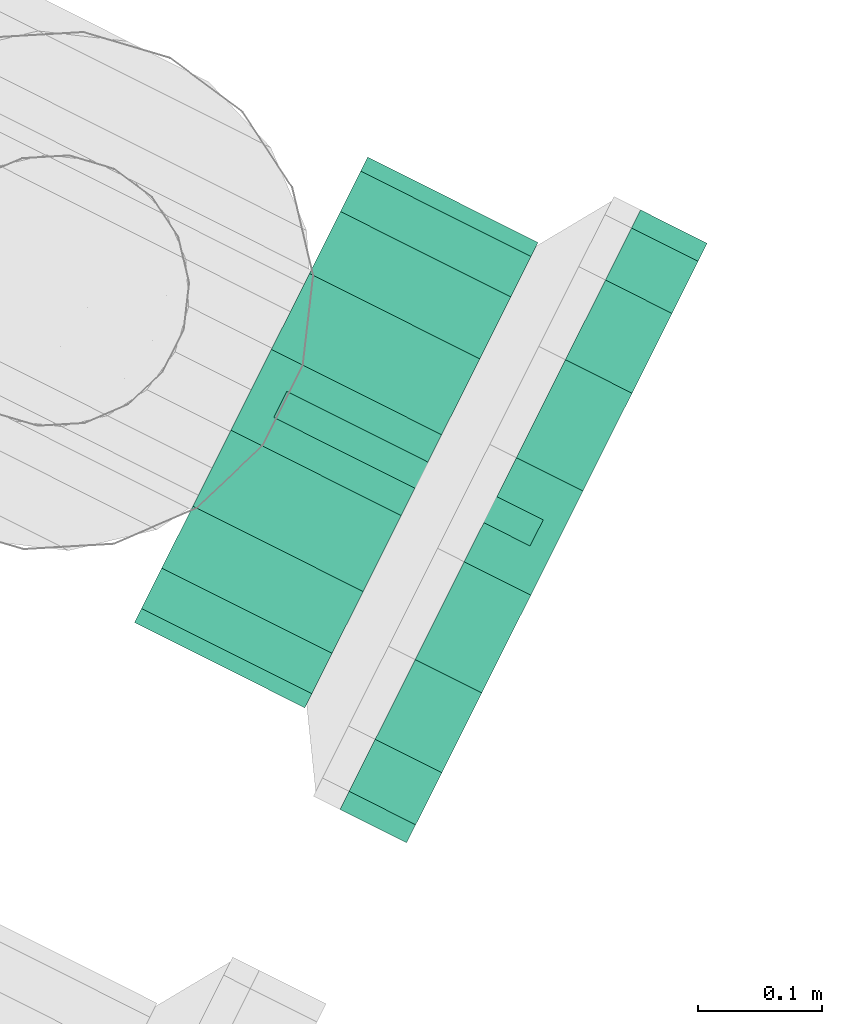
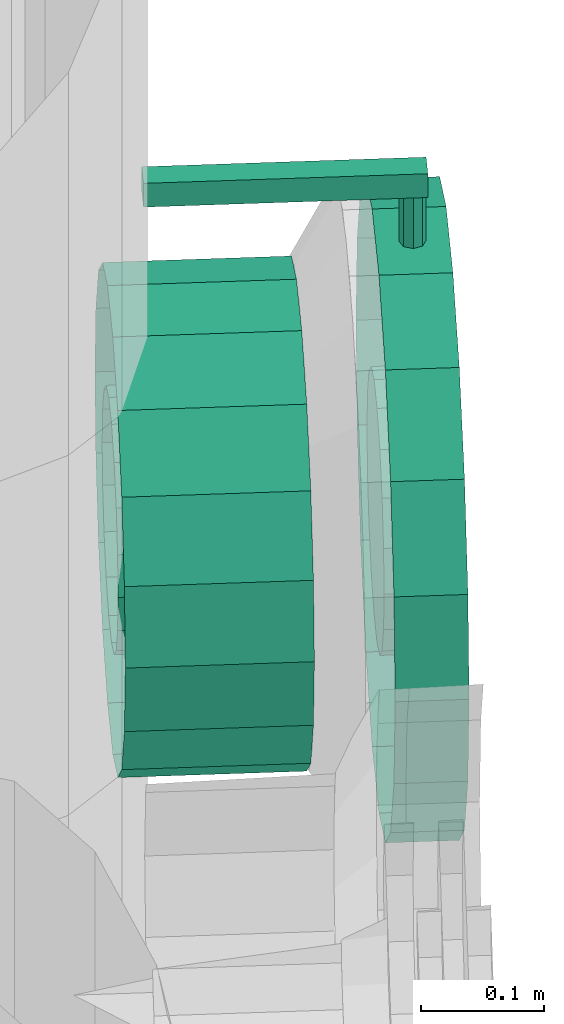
# One storey, part 10 of 11: 1 flow controller, 1 flow segment.
"""IFC2X3 building model written with IfcOpenShell, lengths in metres."""

from ifc_helpers import new_model, si_unit, derived_unit, direction, frame, origin, place, context, subcontext, project, spatial, face_set, surface_model, source, transform, mapped, material, type_object, type_shapes, element, save


model = new_model("IFC2X3")

# Units and contexts
model_context = context("Model", 3, precision=5.2338327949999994e-05, world=origin(), true_north=direction((0.0, 1.0)))
body_context = subcontext(model_context, "Body", "Model", "MODEL_VIEW")
ifc_project = project(units=[si_unit("LENGTHUNIT", "METRE"), si_unit("AREAUNIT", "SQUARE_METRE"), si_unit("VOLUMEUNIT", "CUBIC_METRE"), si_unit("MASSUNIT", "GRAM", prefix="KILO"), si_unit("PLANEANGLEUNIT", "RADIAN"), derived_unit("THERMALTRANSMITTANCEUNIT", [(si_unit("MASSUNIT", "GRAM", prefix="KILO"), 1), (si_unit("THERMODYNAMICTEMPERATUREUNIT", "KELVIN"), -1), (si_unit("TIMEUNIT", "SECOND"), -3)])], contexts=[model_context])

# Site, building, storey
site_placement = place(None, frame((0.0, 0.0, 0.0), z_axis=(0.0, 0.0, 1.0), x_axis=(0.8939966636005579, -0.4480736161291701, 0.0)))
site = spatial("IfcSite", under=ifc_project, at=site_placement, Name="Default", CompositionType="ELEMENT")
building_placement = place(site_placement, origin())
building = spatial("IfcBuilding", under=site, at=building_placement, CompositionType="ELEMENT")
storey_placement = place(building_placement, frame((0.0, 0.0, -2.7499999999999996)))
storey = spatial("IfcBuildingStorey", under=building, at=storey_placement, Name="1. Untergeschoss", CompositionType="ELEMENT", Elevation=-2.7499999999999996)

# Flow controller
ifc_material = material(Name="IfcSurfaceStyle #1741")
distribution_element_type_1 = type_object("IfcDistributionElementType", Name="Zwischenflanschklappe 861187:Zwischenflanschklappe 861187", material=ifc_material)
shared_shape_1 = source(origin(), body_context, "Body", "SurfaceModel", [
    surface_model("IfcFaceBasedSurfaceModel", [(1.1205692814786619, 8.023958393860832, -0.6886073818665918), (1.3514192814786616, 8.023958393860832, -0.6886073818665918), (1.3514192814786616, 8.000458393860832, -0.6886073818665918), (1.1205692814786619, 8.000458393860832, -0.6886073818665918), (1.3514192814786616, 8.000458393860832, -0.6651073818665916), (1.1205692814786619, 8.000458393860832, -0.6651073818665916), (1.3514192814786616, 8.023958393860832, -0.6651073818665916), (1.1205692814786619, 8.023958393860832, -0.6651073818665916), (1.3096692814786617, 7.8947083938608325, -1.0051073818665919), (1.3096692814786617, 7.901794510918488, -1.045294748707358), (1.3296692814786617, 7.901794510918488, -1.045294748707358), (1.3296692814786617, 7.8947083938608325, -1.0051073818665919), (1.3096692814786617, 7.922198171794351, -1.0806349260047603), (1.3296692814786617, 7.922198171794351, -1.0806349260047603), (1.3096692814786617, 7.953458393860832, -1.106865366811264), (1.3296692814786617, 7.953458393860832, -1.106865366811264), (1.3096692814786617, 7.991804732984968, -1.1208222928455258), (1.3296692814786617, 7.991804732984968, -1.1208222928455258), (1.3096692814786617, 8.032612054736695, -1.120822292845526), (1.3296692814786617, 8.032612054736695, -1.120822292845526), (1.3096692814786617, 8.070958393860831, -1.1068653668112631), (1.3296692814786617, 8.070958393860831, -1.1068653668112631), (1.3096692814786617, 8.102218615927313, -1.08063492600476), (1.3296692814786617, 8.102218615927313, -1.08063492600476), (1.3096692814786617, 8.122622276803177, -1.0452947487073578), (1.3296692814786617, 8.122622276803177, -1.0452947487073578), (1.3096692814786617, 8.129708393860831, -1.0051073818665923), (1.3296692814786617, 8.129708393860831, -1.0051073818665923), (1.3096692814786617, 8.122622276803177, -0.9649200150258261), (1.3296692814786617, 8.122622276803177, -0.9649200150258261), (1.3096692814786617, 8.102218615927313, -0.9295798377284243), (1.3296692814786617, 8.102218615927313, -0.9295798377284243), (1.3096692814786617, 8.070958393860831, -0.9033493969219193), (1.3296692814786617, 8.070958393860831, -0.9033493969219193), (1.3096692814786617, 8.032612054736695, -0.8893924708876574), (1.3296692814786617, 8.032612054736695, -0.8893924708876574), (1.3096692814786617, 7.991804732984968, -0.8893924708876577), (1.3296692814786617, 7.991804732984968, -0.8893924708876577), (1.3096692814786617, 7.953458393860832, -0.9033493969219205), (1.3296692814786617, 7.953458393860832, -0.9033493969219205), (1.3096692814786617, 7.922198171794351, -0.9295798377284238), (1.3296692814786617, 7.922198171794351, -0.9295798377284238), (1.3096692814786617, 7.901794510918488, -0.9649200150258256), (1.3296692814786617, 7.901794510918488, -0.9649200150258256), (1.3096692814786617, 8.012208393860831, -1.0051073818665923), (1.3296692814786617, 8.012208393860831, -1.0051073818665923), (1.3296692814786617, 7.842208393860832, -1.0051073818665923), (1.3296692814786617, 7.852460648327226, -1.063250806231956), (1.3496692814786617, 7.852460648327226, -1.063250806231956), (1.3496692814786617, 7.842208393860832, -1.0051073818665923), (1.3296692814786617, 7.881980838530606, -1.1143812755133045), (1.3496692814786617, 7.881980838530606, -1.1143812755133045), (1.3296692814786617, 7.927208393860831, -1.1523317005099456), (1.3496692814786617, 7.927208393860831, -1.1523317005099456), (1.3296692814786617, 7.982688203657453, -1.172524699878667), (1.3496692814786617, 7.982688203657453, -1.172524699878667), (1.3296692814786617, 8.04172858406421, -1.1725246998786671), (1.3496692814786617, 8.04172858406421, -1.1725246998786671), (1.3296692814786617, 8.097208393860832, -1.1523317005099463), (1.3496692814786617, 8.097208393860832, -1.1523317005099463), (1.3296692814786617, 8.142435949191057, -1.1143812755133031), (1.3496692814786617, 8.142435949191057, -1.1143812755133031), (1.3296692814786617, 8.171956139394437, -1.063250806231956), (1.3496692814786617, 8.171956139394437, -1.063250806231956), (1.3296692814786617, 8.182208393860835, -1.0051073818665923), (1.3496692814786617, 8.182208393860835, -1.0051073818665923), (1.3296692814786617, 8.171956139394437, -0.9469639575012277), (1.3496692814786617, 8.171956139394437, -0.9469639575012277), (1.3296692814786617, 8.142435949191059, -0.8958334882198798), (1.3496692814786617, 8.142435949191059, -0.8958334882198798), (1.3296692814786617, 8.097208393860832, -0.8578830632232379), (1.3496692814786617, 8.097208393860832, -0.8578830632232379), (1.3296692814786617, 8.04172858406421, -0.8376900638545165), (1.3496692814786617, 8.04172858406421, -0.8376900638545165), (1.3296692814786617, 7.982688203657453, -0.8376900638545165), (1.3496692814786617, 7.982688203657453, -0.8376900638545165), (1.3296692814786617, 7.927208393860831, -0.8578830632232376), (1.3496692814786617, 7.927208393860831, -0.8578830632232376), (1.3296692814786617, 7.881980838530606, -0.8958334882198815), (1.3496692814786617, 7.881980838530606, -0.8958334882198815), (1.3296692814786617, 7.852460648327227, -0.946963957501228), (1.3496692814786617, 7.852460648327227, -0.946963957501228), (1.3496692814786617, 8.012208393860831, -1.0051073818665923), (1.3496692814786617, 7.8947083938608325, -1.0051073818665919), (1.3496692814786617, 7.901794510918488, -1.045294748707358), (1.3696692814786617, 7.901794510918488, -1.045294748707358), (1.3696692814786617, 7.8947083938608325, -1.0051073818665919), (1.3496692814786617, 7.922198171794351, -1.0806349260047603), (1.3696692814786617, 7.922198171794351, -1.0806349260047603), (1.3496692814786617, 7.953458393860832, -1.106865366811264), (1.3696692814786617, 7.953458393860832, -1.106865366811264), (1.3496692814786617, 7.991804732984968, -1.1208222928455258), (1.3696692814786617, 7.991804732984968, -1.1208222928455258), (1.3496692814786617, 8.032612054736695, -1.120822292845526), (1.3696692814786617, 8.032612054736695, -1.120822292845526), (1.3496692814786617, 8.070958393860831, -1.1068653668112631), (1.3696692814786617, 8.070958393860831, -1.1068653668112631), (1.3496692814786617, 8.102218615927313, -1.08063492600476), (1.3696692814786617, 8.102218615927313, -1.08063492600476), (1.3496692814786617, 8.122622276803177, -1.0452947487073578), (1.3696692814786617, 8.122622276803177, -1.0452947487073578), (1.3496692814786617, 8.129708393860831, -1.0051073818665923), (1.3696692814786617, 8.129708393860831, -1.0051073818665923), (1.3496692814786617, 8.122622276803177, -0.9649200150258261), (1.3696692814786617, 8.122622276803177, -0.9649200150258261), (1.3496692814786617, 8.102218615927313, -0.9295798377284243), (1.3696692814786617, 8.102218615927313, -0.9295798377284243), (1.3496692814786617, 8.070958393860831, -0.9033493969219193), (1.3696692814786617, 8.070958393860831, -0.9033493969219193), (1.3496692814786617, 8.032612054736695, -0.8893924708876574), (1.3696692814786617, 8.032612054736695, -0.8893924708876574), (1.3496692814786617, 7.991804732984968, -0.8893924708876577), (1.3696692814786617, 7.991804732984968, -0.8893924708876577), (1.3496692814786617, 7.953458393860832, -0.9033493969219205), (1.3696692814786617, 7.953458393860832, -0.9033493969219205), (1.3496692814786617, 7.922198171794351, -0.9295798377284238), (1.3696692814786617, 7.922198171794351, -0.9295798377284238), (1.3496692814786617, 7.901794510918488, -0.9649200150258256), (1.3696692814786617, 7.901794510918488, -0.9649200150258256), (1.3696692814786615, 8.012208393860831, -1.0051073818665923), (1.339669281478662, 8.002208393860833, -1.0051073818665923), (1.3430894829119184, 8.002811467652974, -1.0051073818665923), (1.3430894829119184, 8.002811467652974, -0.7618573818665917), (1.339669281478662, 8.002208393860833, -0.7618573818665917), (1.3460971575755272, 8.004547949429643, -1.0051073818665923), (1.3460971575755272, 8.004547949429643, -0.7618573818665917), (1.3483295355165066, 8.007208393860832, -1.0051073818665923), (1.3483295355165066, 8.007208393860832, -0.7618573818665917), (1.349517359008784, 8.010471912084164, -1.0051073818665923), (1.349517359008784, 8.010471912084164, -0.7618573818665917), (1.349517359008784, 8.013944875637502, -1.0051073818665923), (1.349517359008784, 8.013944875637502, -0.7618573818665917), (1.3483295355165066, 8.017208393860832, -1.0051073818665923), (1.3483295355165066, 8.017208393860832, -0.7618573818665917), (1.3460971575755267, 8.019868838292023, -1.0051073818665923), (1.3460971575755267, 8.019868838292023, -0.7618573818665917), (1.3430894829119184, 8.021605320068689, -1.0051073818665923), (1.3430894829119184, 8.021605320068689, -0.7618573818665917), (1.339669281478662, 8.022208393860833, -1.0051073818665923), (1.339669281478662, 8.022208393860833, -0.7618573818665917), (1.336249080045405, 8.021605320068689, -1.0051073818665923), (1.336249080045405, 8.021605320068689, -0.7618573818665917), (1.333241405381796, 8.019868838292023, -1.0051073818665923), (1.333241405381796, 8.019868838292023, -0.7618573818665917), (1.3310090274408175, 8.017208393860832, -1.0051073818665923), (1.3310090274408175, 8.017208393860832, -0.7618573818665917), (1.3298212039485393, 8.013944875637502, -1.0051073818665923), (1.3298212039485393, 8.013944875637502, -0.7618573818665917), (1.3298212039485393, 8.010471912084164, -1.0051073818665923), (1.3298212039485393, 8.010471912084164, -0.7618573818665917), (1.3310090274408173, 8.007208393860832, -1.0051073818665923), (1.3310090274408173, 8.007208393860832, -0.7618573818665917), (1.3332414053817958, 8.004547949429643, -1.0051073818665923), (1.3332414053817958, 8.004547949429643, -0.7618573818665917), (1.336249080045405, 8.002811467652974, -1.0051073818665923), (1.336249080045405, 8.002811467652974, -0.7618573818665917), (1.339669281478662, 8.012208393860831, -1.005107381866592), (1.339669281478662, 8.012208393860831, -0.7618573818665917), (1.339669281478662, 8.001253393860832, -0.7618573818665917), (1.3474156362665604, 8.004462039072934, -0.7618573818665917), (1.3474156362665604, 8.004462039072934, -0.6886073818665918), (1.339669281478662, 8.001253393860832, -0.6886073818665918), (1.3506242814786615, 8.012208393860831, -0.7618573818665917), (1.3506242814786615, 8.012208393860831, -0.6886073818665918), (1.3474156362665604, 8.01995474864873, -0.7618573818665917), (1.3474156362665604, 8.01995474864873, -0.6886073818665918), (1.339669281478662, 8.023163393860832, -0.7618573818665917), (1.339669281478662, 8.023163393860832, -0.6886073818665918), (1.3319229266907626, 8.01995474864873, -0.7618573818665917), (1.3319229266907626, 8.01995474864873, -0.6886073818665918), (1.3287142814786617, 8.012208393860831, -0.7618573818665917), (1.3287142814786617, 8.012208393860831, -0.6886073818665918), (1.3319229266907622, 8.004462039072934, -0.7618573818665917), (1.3319229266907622, 8.004462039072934, -0.6886073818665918), (1.339669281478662, 8.012208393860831, -0.6886073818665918), (1.3096692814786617, 7.742208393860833, -1.0051073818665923), (1.3096692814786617, 7.758491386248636, -1.0974528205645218), (1.3696692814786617, 7.758491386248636, -1.0974528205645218), (1.3696692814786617, 7.742208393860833, -1.0051073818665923), (1.3096692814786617, 7.805376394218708, -1.1786600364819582), (1.3696692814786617, 7.805376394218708, -1.1786600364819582), (1.3096692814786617, 7.8772083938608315, -1.2389342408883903), (1.3696692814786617, 7.8772083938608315, -1.2389342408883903), (1.3096692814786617, 7.965323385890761, -1.271005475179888), (1.3696692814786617, 7.965323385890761, -1.271005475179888), (1.3096692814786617, 8.059093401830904, -1.271005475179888), (1.3696692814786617, 8.059093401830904, -1.271005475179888), (1.3096692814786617, 8.147208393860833, -1.2389342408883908), (1.3696692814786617, 8.147208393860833, -1.2389342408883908), (1.3096692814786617, 8.219040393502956, -1.1786600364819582), (1.3696692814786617, 8.219040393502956, -1.1786600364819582), (1.3096692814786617, 8.265925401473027, -1.0974528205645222), (1.3696692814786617, 8.265925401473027, -1.0974528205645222), (1.3096692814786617, 8.282208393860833, -1.0051073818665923), (1.3696692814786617, 8.282208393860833, -1.0051073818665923), (1.3096692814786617, 8.265925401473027, -0.912761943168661), (1.3696692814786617, 8.265925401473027, -0.912761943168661), (1.3096692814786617, 8.219040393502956, -0.8315547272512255), (1.3696692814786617, 8.219040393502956, -0.8315547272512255), (1.3096692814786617, 8.147208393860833, -0.7712805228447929), (1.3696692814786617, 8.147208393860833, -0.7712805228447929), (1.3096692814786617, 8.059093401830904, -0.7392092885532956), (1.3696692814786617, 8.059093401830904, -0.7392092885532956), (1.3096692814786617, 7.965323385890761, -0.7392092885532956), (1.3696692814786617, 7.965323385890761, -0.7392092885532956), (1.3096692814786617, 7.8772083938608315, -0.7712805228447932), (1.3696692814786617, 7.8772083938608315, -0.7712805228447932), (1.3096692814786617, 7.805376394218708, -0.8315547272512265), (1.3696692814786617, 7.805376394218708, -0.8315547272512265), (1.3096692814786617, 7.758491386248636, -0.9127619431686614), (1.3696692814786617, 7.758491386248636, -0.9127619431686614)], [face_set([[[0, 1, 2, 3]], [[3, 2, 4, 5]], [[5, 4, 6, 7]], [[7, 6, 1, 0]], [[0, 3, 5, 7]], [[6, 4, 2, 1]], [[8, 9, 10, 11]], [[9, 12, 13, 10]], [[12, 14, 15, 13]], [[14, 16, 17, 15]], [[16, 18, 19, 17]], [[18, 20, 21, 19]], [[20, 22, 23, 21]], [[22, 24, 25, 23]], [[24, 26, 27, 25]], [[26, 28, 29, 27]], [[28, 30, 31, 29]], [[30, 32, 33, 31]], [[32, 34, 35, 33]], [[34, 36, 37, 35]], [[36, 38, 39, 37]], [[38, 40, 41, 39]], [[40, 42, 43, 41]], [[42, 8, 11, 43]], [[44, 9, 8]], [[44, 12, 9]], [[44, 14, 12]], [[44, 16, 14]], [[44, 18, 16]], [[44, 20, 18]], [[44, 22, 20]], [[44, 24, 22]], [[44, 26, 24]], [[44, 28, 26]], [[44, 30, 28]], [[44, 32, 30]], [[44, 34, 32]], [[44, 36, 34]], [[44, 38, 36]], [[44, 40, 38]], [[44, 42, 40]], [[44, 8, 42]], [[45, 43, 11]], [[45, 41, 43]], [[45, 39, 41]], [[45, 37, 39]], [[45, 35, 37]], [[45, 33, 35]], [[45, 31, 33]], [[45, 29, 31]], [[45, 27, 29]], [[45, 25, 27]], [[45, 23, 25]], [[45, 21, 23]], [[45, 19, 21]], [[45, 17, 19]], [[45, 15, 17]], [[45, 13, 15]], [[45, 10, 13]], [[45, 11, 10]], [[46, 47, 48, 49]], [[47, 50, 51, 48]], [[50, 52, 53, 51]], [[52, 54, 55, 53]], [[54, 56, 57, 55]], [[56, 58, 59, 57]], [[58, 60, 61, 59]], [[60, 62, 63, 61]], [[62, 64, 65, 63]], [[64, 66, 67, 65]], [[66, 68, 69, 67]], [[68, 70, 71, 69]], [[70, 72, 73, 71]], [[72, 74, 75, 73]], [[74, 76, 77, 75]], [[76, 78, 79, 77]], [[78, 80, 81, 79]], [[80, 46, 49, 81]], [[45, 47, 46]], [[45, 50, 47]], [[45, 52, 50]], [[45, 54, 52]], [[45, 56, 54]], [[45, 58, 56]], [[45, 60, 58]], [[45, 62, 60]], [[45, 64, 62]], [[45, 66, 64]], [[45, 68, 66]], [[45, 70, 68]], [[45, 72, 70]], [[45, 74, 72]], [[45, 76, 74]], [[45, 78, 76]], [[45, 80, 78]], [[45, 46, 80]], [[82, 81, 49]], [[82, 79, 81]], [[82, 77, 79]], [[82, 75, 77]], [[82, 73, 75]], [[82, 71, 73]], [[82, 69, 71]], [[82, 67, 69]], [[82, 65, 67]], [[82, 63, 65]], [[82, 61, 63]], [[82, 59, 61]], [[82, 57, 59]], [[82, 55, 57]], [[82, 53, 55]], [[82, 51, 53]], [[82, 48, 51]], [[82, 49, 48]], [[83, 84, 85, 86]], [[84, 87, 88, 85]], [[87, 89, 90, 88]], [[89, 91, 92, 90]], [[91, 93, 94, 92]], [[93, 95, 96, 94]], [[95, 97, 98, 96]], [[97, 99, 100, 98]], [[99, 101, 102, 100]], [[101, 103, 104, 102]], [[103, 105, 106, 104]], [[105, 107, 108, 106]], [[107, 109, 110, 108]], [[109, 111, 112, 110]], [[111, 113, 114, 112]], [[113, 115, 116, 114]], [[115, 117, 118, 116]], [[117, 83, 86, 118]], [[82, 84, 83]], [[82, 87, 84]], [[82, 89, 87]], [[82, 91, 89]], [[82, 93, 91]], [[82, 95, 93]], [[82, 97, 95]], [[82, 99, 97]], [[82, 101, 99]], [[82, 103, 101]], [[82, 105, 103]], [[82, 107, 105]], [[82, 109, 107]], [[82, 111, 109]], [[82, 113, 111]], [[82, 115, 113]], [[82, 117, 115]], [[82, 83, 117]], [[119, 118, 86]], [[119, 116, 118]], [[119, 114, 116]], [[119, 112, 114]], [[119, 110, 112]], [[119, 108, 110]], [[119, 106, 108]], [[119, 104, 106]], [[119, 102, 104]], [[119, 100, 102]], [[119, 98, 100]], [[119, 96, 98]], [[119, 94, 96]], [[119, 92, 94]], [[119, 90, 92]], [[119, 88, 90]], [[119, 85, 88]], [[119, 86, 85]], [[120, 121, 122, 123]], [[121, 124, 125, 122]], [[124, 126, 127, 125]], [[126, 128, 129, 127]], [[128, 130, 131, 129]], [[130, 132, 133, 131]], [[132, 134, 135, 133]], [[134, 136, 137, 135]], [[136, 138, 139, 137]], [[138, 140, 141, 139]], [[140, 142, 143, 141]], [[142, 144, 145, 143]], [[144, 146, 147, 145]], [[146, 148, 149, 147]], [[148, 150, 151, 149]], [[150, 152, 153, 151]], [[152, 154, 155, 153]], [[154, 120, 123, 155]], [[156, 121, 120]], [[156, 124, 121]], [[156, 126, 124]], [[156, 128, 126]], [[156, 130, 128]], [[156, 132, 130]], [[156, 134, 132]], [[156, 136, 134]], [[156, 138, 136]], [[156, 140, 138]], [[156, 142, 140]], [[156, 144, 142]], [[156, 146, 144]], [[156, 148, 146]], [[156, 150, 148]], [[156, 152, 150]], [[156, 154, 152]], [[156, 120, 154]], [[157, 155, 123]], [[157, 153, 155]], [[157, 151, 153]], [[157, 149, 151]], [[157, 147, 149]], [[157, 145, 147]], [[157, 143, 145]], [[157, 141, 143]], [[157, 139, 141]], [[157, 137, 139]], [[157, 135, 137]], [[157, 133, 135]], [[157, 131, 133]], [[157, 129, 131]], [[157, 127, 129]], [[157, 125, 127]], [[157, 122, 125]], [[157, 123, 122]], [[158, 159, 160, 161]], [[159, 162, 163, 160]], [[162, 164, 165, 163]], [[164, 166, 167, 165]], [[166, 168, 169, 167]], [[168, 170, 171, 169]], [[170, 172, 173, 171]], [[172, 158, 161, 173]], [[174, 173, 161]], [[174, 171, 173]], [[174, 169, 171]], [[174, 167, 169]], [[174, 165, 167]], [[174, 163, 165]], [[174, 160, 163]], [[174, 161, 160]], [[175, 176, 177, 178]], [[176, 179, 180, 177]], [[179, 181, 182, 180]], [[181, 183, 184, 182]], [[183, 185, 186, 184]], [[185, 187, 188, 186]], [[187, 189, 190, 188]], [[189, 191, 192, 190]], [[191, 193, 194, 192]], [[193, 195, 196, 194]], [[195, 197, 198, 196]], [[197, 199, 200, 198]], [[199, 201, 202, 200]], [[201, 203, 204, 202]], [[203, 205, 206, 204]], [[205, 207, 208, 206]], [[207, 209, 210, 208]], [[209, 175, 178, 210]]])]),
])
type_shapes(distribution_element_type_1, [shared_shape_1])
flow_controller_placement = place(storey_placement, frame((0.0, 0.0, 2.7499999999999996)))
element("IfcFlowController", 1, at=flow_controller_placement, inside=storey, type_object=distribution_element_type_1, material=ifc_material, Name="Zwischenflanschklappe", ObjectType="Zwischenflanschklappe", context=body_context, shape_type="MappedRepresentation", body=[
    mapped(shared_shape_1, transform((0.0, 0.0, 0.0), scale=1.0)),
])

# Flow segment
distribution_element_type_2 = type_object("IfcDistributionElementType", Name="Stahlrohr nach DIN 2448 861210:Stahlrohr nach DIN 2448 861210", material=ifc_material)
shared_shape_2 = source(origin(), body_context, "Body", "SurfaceModel", [
    surface_model("IfcFaceBasedSurfaceModel", [(1.094269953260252, 8.121758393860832, -1.0051073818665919), (1.094269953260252, 8.11515172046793, -0.9676390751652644), (1.2476692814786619, 8.11515172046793, -0.9676390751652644), (1.2476692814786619, 8.121758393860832, -1.0051073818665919), (1.094269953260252, 8.096128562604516, -0.934689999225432), (1.2476692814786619, 8.096128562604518, -0.9346899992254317), (1.094269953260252, 8.066983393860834, -0.9102342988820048), (1.2476692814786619, 8.066983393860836, -0.9102342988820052), (1.094269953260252, 8.03123155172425, -0.8972216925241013), (1.2476692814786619, 8.031231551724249, -0.8972216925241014), (1.094269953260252, 7.9931852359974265, -0.8972216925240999), (1.2476692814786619, 7.993185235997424, -0.8972216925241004), (1.094269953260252, 7.9574333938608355, -0.9102342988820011), (1.2476692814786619, 7.9574333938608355, -0.9102342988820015), (1.094269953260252, 7.928288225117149, -0.9346899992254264), (1.2476692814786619, 7.928288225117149, -0.9346899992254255), (1.094269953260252, 7.909265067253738, -0.967639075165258), (1.2476692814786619, 7.909265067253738, -0.9676390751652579), (1.094269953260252, 7.902658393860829, -1.0051073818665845), (1.2476692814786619, 7.902658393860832, -1.0051073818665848), (1.094269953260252, 7.909265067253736, -1.0425756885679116), (1.2476692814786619, 7.909265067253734, -1.042575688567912), (1.094269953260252, 7.928288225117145, -1.0755247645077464), (1.2476692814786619, 7.928288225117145, -1.0755247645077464), (1.094269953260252, 7.957433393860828, -1.0999804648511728), (1.2476692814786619, 7.9574333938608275, -1.0999804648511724), (1.094269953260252, 7.993185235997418, -1.112993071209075), (1.2476692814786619, 7.993185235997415, -1.1129930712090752), (1.094269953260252, 8.031231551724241, -1.1129930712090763), (1.2476692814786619, 8.03123155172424, -1.1129930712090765), (1.094269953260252, 8.066983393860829, -1.0999804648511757), (1.2476692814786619, 8.066983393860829, -1.0999804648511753), (1.094269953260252, 8.096128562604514, -1.075524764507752), (1.2476692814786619, 8.096128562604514, -1.075524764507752), (1.094269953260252, 8.115151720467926, -1.0425756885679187), (1.2476692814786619, 8.115151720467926, -1.0425756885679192), (1.094269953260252, 8.221758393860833, -1.0051073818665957), (1.094269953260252, 8.209120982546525, -0.9334370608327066), (1.2476692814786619, 8.209120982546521, -0.9334370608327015), (1.2476692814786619, 8.22175839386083, -1.0051073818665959), (1.094269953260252, 8.172733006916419, -0.8704112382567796), (1.2476692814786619, 8.172733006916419, -0.8704112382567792), (1.094269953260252, 8.116983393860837, -0.8236317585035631), (1.2476692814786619, 8.116983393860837, -0.8236317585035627), (1.094269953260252, 8.048596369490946, -0.7987409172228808), (1.2476692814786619, 8.048596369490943, -0.7987409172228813), (1.094269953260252, 7.975820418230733, -0.7987409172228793), (1.2476692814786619, 7.975820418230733, -0.798740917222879), (1.094269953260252, 7.90743339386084, -0.8236317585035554), (1.2476692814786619, 7.907433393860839, -0.8236317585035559), (1.094269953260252, 7.851683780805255, -0.8704112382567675), (1.2476692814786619, 7.8516837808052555, -0.870411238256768), (1.094269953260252, 7.815295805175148, -0.933437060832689), (1.2476692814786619, 7.815295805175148, -0.9334370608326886), (1.094269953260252, 7.802658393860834, -1.0051073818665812), (1.2476692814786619, 7.802658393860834, -1.0051073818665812), (1.094269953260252, 7.815295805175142, -1.0767777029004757), (1.2476692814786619, 7.815295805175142, -1.0767777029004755), (1.094269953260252, 7.851683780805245, -1.1398035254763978), (1.2476692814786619, 7.851683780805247, -1.1398035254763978), (1.094269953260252, 7.907433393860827, -1.186583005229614), (1.2476692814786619, 7.907433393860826, -1.1865830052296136), (1.094269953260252, 7.97582041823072, -1.2114738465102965), (1.2476692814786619, 7.975820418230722, -1.2114738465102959), (1.094269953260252, 8.04859636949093, -1.2114738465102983), (1.2476692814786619, 8.04859636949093, -1.2114738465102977), (1.094269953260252, 8.116983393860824, -1.1865830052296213), (1.2476692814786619, 8.116983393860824, -1.1865830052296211), (1.094269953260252, 8.172733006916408, -1.1398035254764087), (1.2476692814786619, 8.172733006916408, -1.1398035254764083), (1.094269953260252, 8.209120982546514, -1.0767777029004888), (1.2476692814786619, 8.209120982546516, -1.0767777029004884)], [face_set([[[0, 1, 2, 3]], [[1, 4, 5, 2]], [[4, 6, 7, 5]], [[6, 8, 9, 7]], [[8, 10, 11, 9]], [[10, 12, 13, 11]], [[12, 14, 15, 13]], [[14, 16, 17, 15]], [[16, 18, 19, 17]], [[18, 20, 21, 19]], [[20, 22, 23, 21]], [[22, 24, 25, 23]], [[24, 26, 27, 25]], [[26, 28, 29, 27]], [[28, 30, 31, 29]], [[30, 32, 33, 31]], [[32, 34, 35, 33]], [[34, 0, 3, 35]], [[36, 37, 38, 39]], [[37, 40, 41, 38]], [[40, 42, 43, 41]], [[42, 44, 45, 43]], [[44, 46, 47, 45]], [[46, 48, 49, 47]], [[48, 50, 51, 49]], [[50, 52, 53, 51]], [[52, 54, 55, 53]], [[54, 56, 57, 55]], [[56, 58, 59, 57]], [[58, 60, 61, 59]], [[60, 62, 63, 61]], [[62, 64, 65, 63]], [[64, 66, 67, 65]], [[66, 68, 69, 67]], [[68, 70, 71, 69]], [[70, 36, 39, 71]]])]),
])
type_shapes(distribution_element_type_2, [shared_shape_2])
flow_segment_placement = place(storey_placement, frame((0.0, 0.0, 2.7499999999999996)))
element("IfcFlowSegment", 2, at=flow_segment_placement, inside=storey, type_object=distribution_element_type_2, material=ifc_material, Name="Stahlrohr nach DIN 2448", ObjectType="Stahlrohr nach DIN 2448", context=body_context, shape_type="MappedRepresentation", body=[
    mapped(shared_shape_2, transform((0.0, 0.0, 0.0), scale=1.0)),
])

save(model, "model.ifc")
